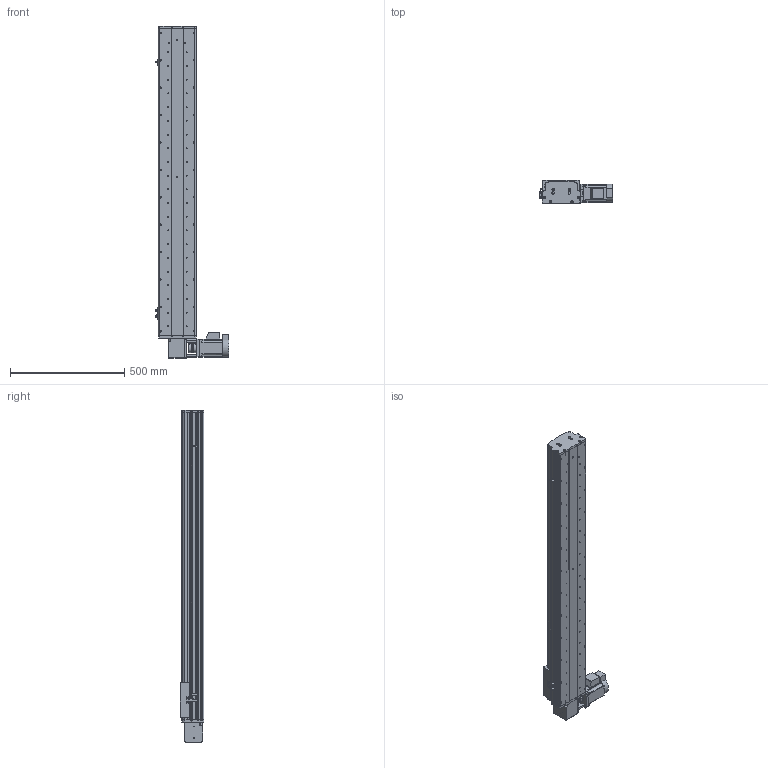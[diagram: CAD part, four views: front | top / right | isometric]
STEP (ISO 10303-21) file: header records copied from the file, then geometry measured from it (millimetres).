
FILE_DESCRIPTION (( 'STEP AP214' ), '1' );
FILE_NAME ('KSD165B-S1100-MRT-CM.STEP', '2017-08-14T06:02:07', ( '微软用户' ), ( '微软中国' ), 'SwSTEP 2.0', 'SolidWorks 2014', '' );
FILE_SCHEMA (( 'AUTOMOTIVE_DESIGN' ));
Length unit declared in the file: millimetre
Products named in the file (16): C39ㄜ1419WP; U倰嫖萇假蚾璃; U倰嫖萇EEㄜSX672; 覜茼え68遵圉猾敕; KSD165模组-同步带-防撞垫2; KSD165模组同步带-防撞垫1; KSD165耀郪-ヶ傷啣1-肮祭湍; KSD165模组-后端板1-同步带; 130宽马达安装板1-带电机座750W（1）; KSD165模组-同步带滑动座-最新版; KSD165B-S1100-MRT-CM; KSD165模组-同步带防尘盖1-1100行程; KSD165模组同步带底板-1100行程; 拸秶雄ん750W侜督萇儂; 165宽安装板同步带带电机座750W; 165宽马达安装板同步带右
Assembly tree (19 placements, depth 2):
  KSD165B-S1100-MRT-CM
    KSD165模组-同步带滑动座-最新版
    130宽马达安装板1-带电机座750W（1）
    KSD165模组-后端板1-同步带
    KSD165耀郪-ヶ傷啣1-肮祭湍
    KSD165模组同步带-防撞垫1
    KSD165模组-同步带-防撞垫2
    覜茼え68遵圉猾敕
    U倰嫖萇EEㄜSX672  x3
    U倰嫖萇假蚾璃  x3
    C39ㄜ1419WP
    165宽马达安装板同步带右
    165宽安装板同步带带电机座750W
    拸秶雄ん750W侜督萇儂
    KSD165模组同步带底板-1100行程
    KSD165模组-同步带防尘盖1-1100行程
Bounding box: 321.2 x 104 x 1454 mm (x, y, z)
Volume: 8335977.8 mm3; surface area: 1887610.4 mm2
Topology: 20 solids, 20 shells, 1528 faces, 4260 edges, 2761 vertices
Faces by surface type: cylinder 851, plane 583, cone 94
Entity records: 48991 total; most frequent: CARTESIAN_POINT 10277, DIRECTION 7598, ORIENTED_EDGE 7172, EDGE_CURVE 3586, AXIS2_PLACEMENT_3D 2898, VERTEX_POINT 2353, LINE 1802, VECTOR 1802
